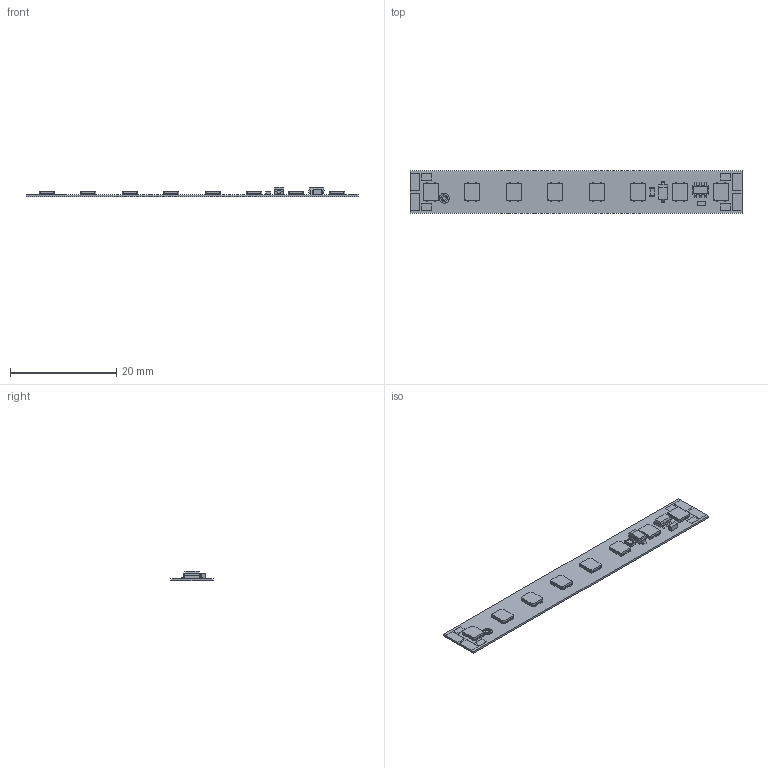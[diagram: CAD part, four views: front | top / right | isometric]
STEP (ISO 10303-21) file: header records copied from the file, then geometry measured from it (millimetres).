
FILE_DESCRIPTION((''),'2;1');
FILE_NAME('16208874_LLE-FLEX-8MM-48V-EXC','2021-02-23T08:54:46',('Bernhard.Fink'),(''),'CREO PARAMETRIC BY PTC INC, 2019164','CREO PARAMETRIC BY PTC INC, 2019164','');
FILE_SCHEMA(('CONFIG_CONTROL_DESIGN'));
Length unit declared in the file: millimetre
Products named in the file (1): 16208874_LLE-FLEX-8MM-48V-EXC
Bounding box: 62.5 x 8 x 1.73 mm (x, y, z)
Volume: 248.5 mm3; surface area: 1161.2 mm2
Topology: 1 solids, 1 shells, 466 faces, 1285 edges, 818 vertices
Faces by surface type: plane 380, cylinder 70, sphere 16
Entity records: 15153 total; most frequent: CARTESIAN_POINT 3391, ORIENTED_EDGE 2538, DIRECTION 2229, EDGE_CURVE 1269, VECTOR 1113, LINE 1113, VERTEX_POINT 818, AXIS2_PLACEMENT_3D 558
